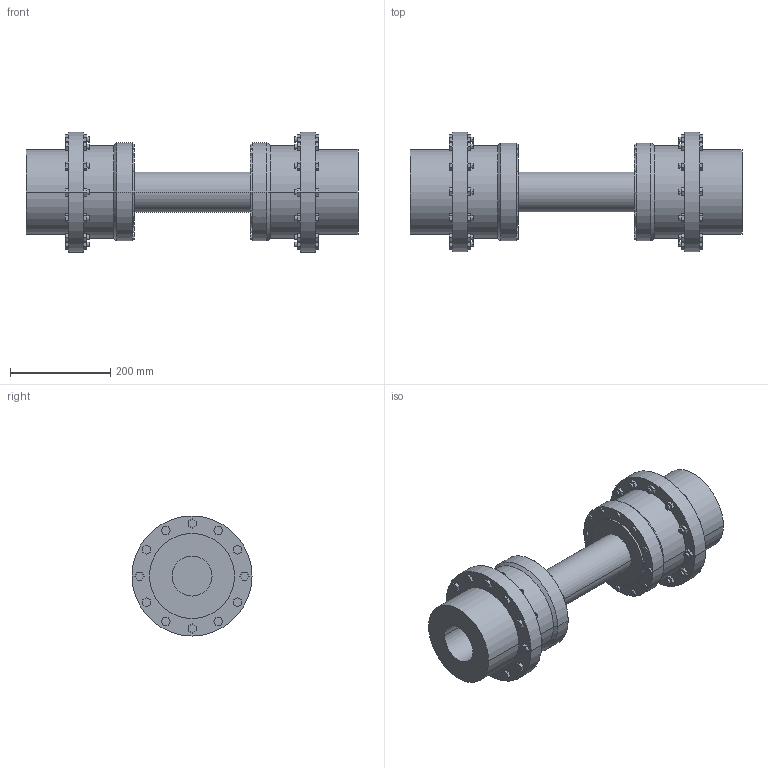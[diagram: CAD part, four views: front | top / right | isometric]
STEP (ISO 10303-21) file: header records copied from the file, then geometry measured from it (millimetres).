
FILE_DESCRIPTION((''),'2;1');
FILE_NAME('A19067500-0_ASM','2018-11-28T',('AB_Roschiwal'),('RENK AG'),'PRO/ENGINEER BY PARAMETRIC TECHNOLOGY CORPORATION, 2015440','PRO/ENGINEER BY PARAMETRIC TECHNOLOGY CORPORATION, 2015440','');
FILE_SCHEMA(('CONFIG_CONTROL_DESIGN'));
Length unit declared in the file: millimetre
Products named in the file (4): SBGK90_GEHAEUSE; SBGK90_NABE; SBGK90_WELLE; A19067500-0_ASM
Assembly tree (5 placements, depth 2):
  A19067500-0_ASM
    SBGK90_GEHAEUSE  x2
    SBGK90_NABE  x2
    SBGK90_WELLE
Bounding box: 664 x 240 x 240 mm (x, y, z)
Volume: 11725523.5 mm3; surface area: 1000067.5 mm2
Topology: 5 solids, 5 shells, 660 faces, 1606 edges, 1068 vertices
Faces by surface type: plane 554, cylinder 102, cone 4
Entity records: 9734 total; most frequent: CARTESIAN_POINT 1683, ORIENTED_EDGE 1612, DIRECTION 1592, EDGE_CURVE 806, VECTOR 702, LINE 702, VERTEX_POINT 536, AXIS2_PLACEMENT_3D 445
